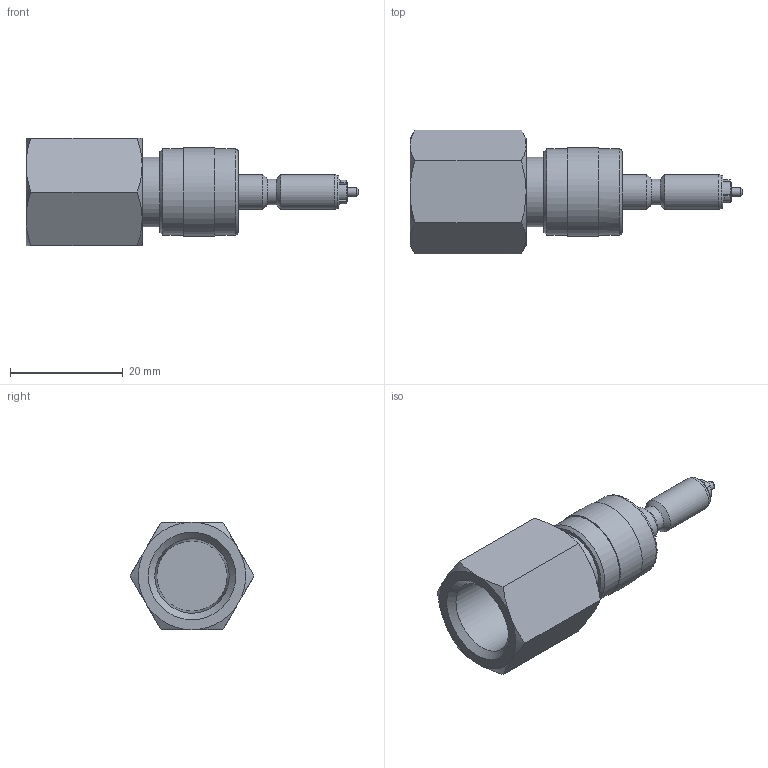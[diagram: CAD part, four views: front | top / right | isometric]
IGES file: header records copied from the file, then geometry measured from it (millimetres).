
Global section: file name: SQC1P-F4N-D0; native system: Autodesk Inventor 2016; preprocessor: unknown; author: 이승민,,11,0; organization: 20170208.004108; date: 20170208.203500; units: millimetre
Bounding box: 58.9 x 22 x 19.05 mm (x, y, z)
Volume: 7627.6 mm3; surface area: 4285.7 mm2
Topology: 1 solids, 1 shells, 89 faces, 241 edges, 166 vertices
Faces by surface type: bspline 89
